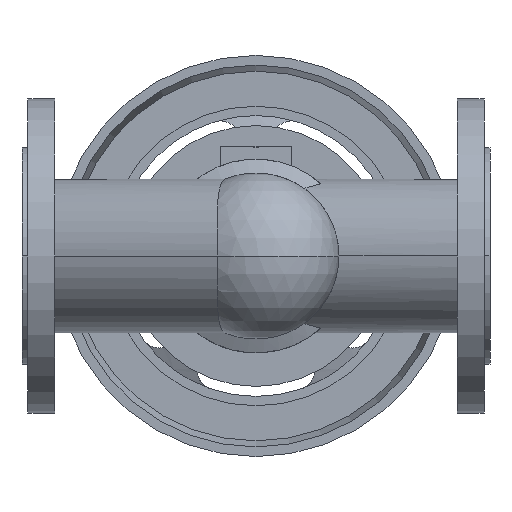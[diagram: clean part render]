
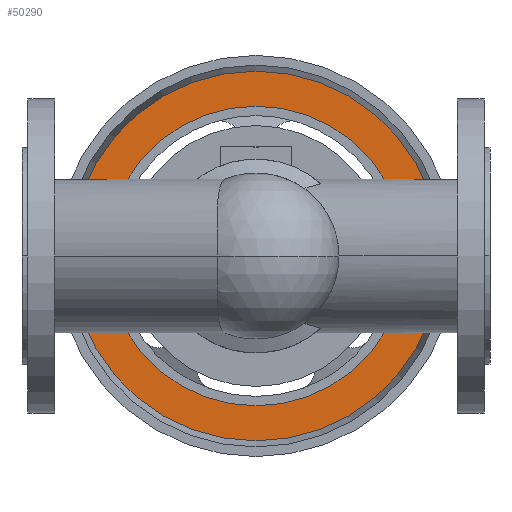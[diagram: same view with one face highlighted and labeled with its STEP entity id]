
A CAD part, front view. The second image highlights one B-rep face of the part: STEP entity #50290.
In plain terms, the highlighted planar face has unit normal (0, -1, 0).
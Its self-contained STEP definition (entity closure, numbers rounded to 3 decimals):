
#49740=CARTESIAN_POINT('',(36.802,489.9,0.));
#49750=VERTEX_POINT('',#49740);
#49780=CARTESIAN_POINT('',(175.,489.9,0.));
#49790=DIRECTION('',(0.,1.,0.));
#49800=DIRECTION('',(-1.,0.,0.));
#49810=AXIS2_PLACEMENT_3D('',#49780,#49790,#49800);
#49820=CIRCLE('',#49810,138.198);
#49830=CARTESIAN_POINT('',(313.198,489.9,0.));
#49840=VERTEX_POINT('',#49830);
#49850=EDGE_CURVE('',#49840,#49750,#49820,.T.);
#50040=CARTESIAN_POINT('',(49.901,489.9,0.))
;
#50050=DIRECTION('',(0.,-1.,0.));
#50060=DIRECTION('',(1.,0.,0.));
#50070=AXIS2_PLACEMENT_3D('',#50040,#50050,#50060);
#50080=PLANE('',#50070);
#50090=ORIENTED_EDGE('',*,*,#49850,.F.);
#50100=EDGE_CURVE('',#49750,#49840,#49820,.T.);
#50110=ORIENTED_EDGE('',*,*,#50100,.F.);
#50120=EDGE_LOOP('',(#50110,#50090));
#50130=FACE_OUTER_BOUND('',#50120,.T.);
#50140=CARTESIAN_POINT('',(175.,489.9,0.));
#50150=DIRECTION('',(0.,1.,0.));
#50160=DIRECTION('',(-1.,0.,0.));
#50170=AXIS2_PLACEMENT_3D('',#50140,#50150,#50160);
#50180=CIRCLE('',#50170,112.);
#50190=CARTESIAN_POINT('',(63.,489.9,0.));
#50200=VERTEX_POINT('',#50190);
#50210=CARTESIAN_POINT('',(287.,489.9,0.));
#50220=VERTEX_POINT('',#50210);
#50230=EDGE_CURVE('',#50200,#50220,#50180,.T.);
#50240=ORIENTED_EDGE('',*,*,#50230,.T.);
#50250=EDGE_CURVE('',#50220,#50200,#50180,.T.);
#50260=ORIENTED_EDGE('',*,*,#50250,.T.);
#50270=EDGE_LOOP('',(#50260,#50240));
#50280=FACE_BOUND('',#50270,.T.);
#50290=ADVANCED_FACE('',(#50130,#50280),#50080,.T.);
